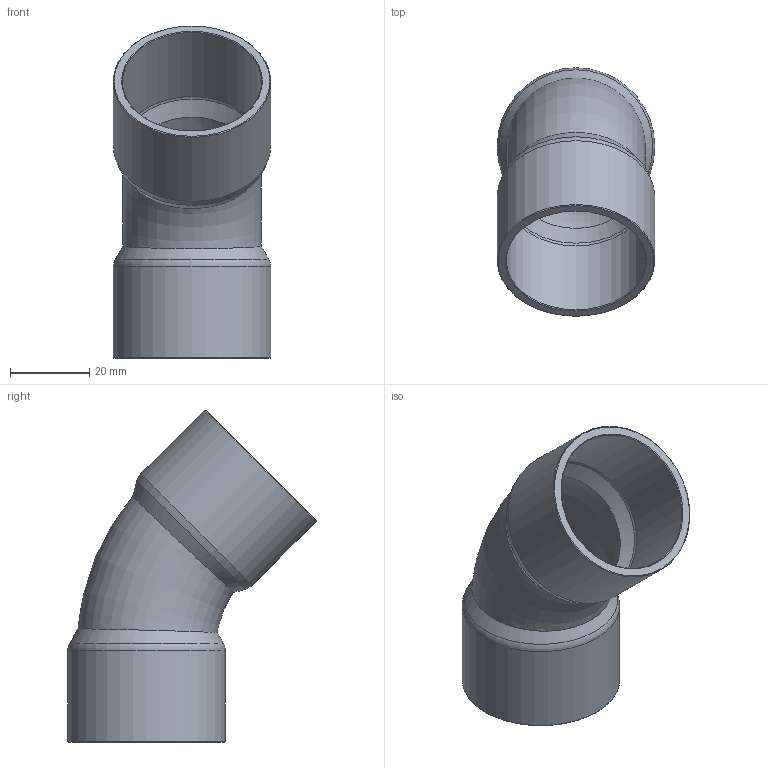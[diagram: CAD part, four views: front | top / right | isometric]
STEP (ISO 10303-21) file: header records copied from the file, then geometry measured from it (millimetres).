
FILE_DESCRIPTION((''),'2;1');
FILE_NAME('G:\SANHA-Ternat\Technik\Management\Bouwmaten + markeringen\z-maattekeningen 3D\29000s\29041138_3d.stp','2017-07-26T11:42:30',('vdvijverd'),(''),'Autodesk Inventor 2009','Autodesk Inventor 2009','');
FILE_SCHEMA(('AUTOMOTIVE_DESIGN { 1 0 10303 214 1 1 1 1 }'));
Length unit declared in the file: millimetre
Products named in the file (1): 29041138_3d
Bounding box: 39.7 x 62.64 x 83.64 mm (x, y, z)
Volume: 20905 mm3; surface area: 18671.1 mm2
Topology: 1 solids, 1 shells, 20 faces, 38 edges, 20 vertices
Faces by surface type: bspline 8, cone 6, torus 3, cylinder 2, plane 1
Full cylindrical faces by diameter (mm): 35.105 x1, 39.705 x1
Entity records: 808 total; most frequent: CARTESIAN_POINT 478, DIRECTION 58, ORIENTED_EDGE 40, EDGE_LOOP 40, AXIS2_PLACEMENT_3D 29, VERTEX_POINT 20, EDGE_CURVE 20, FACE_OUTER_BOUND 20
